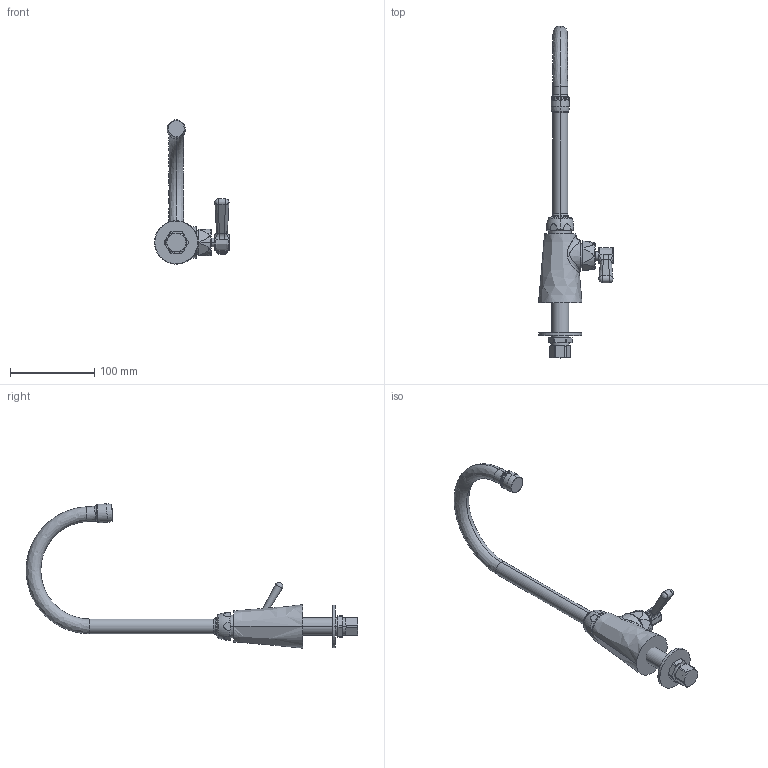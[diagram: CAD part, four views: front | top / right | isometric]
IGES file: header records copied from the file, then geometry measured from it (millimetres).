
Start section:  PTC IGES file: 350-CP_REV042810.igs
Global section: file name: 350-CP_REV042810.igs; native system: Pro/ENGINEER by Parametric Technology Corporation; preprocessor: 2009230; author: sdmitruk; organization: Unknown; date: 20100428.093937; units: inch
Bounding box: 88.92 x 393.74 x 171.18 mm (x, y, z)
Surface area: 64118 mm2 (no closed solid volume)
Topology: 0 solids, 0 shells, 209 faces, 1489 edges, 1957 vertices
Faces by surface type: revolution 113, bspline 96
